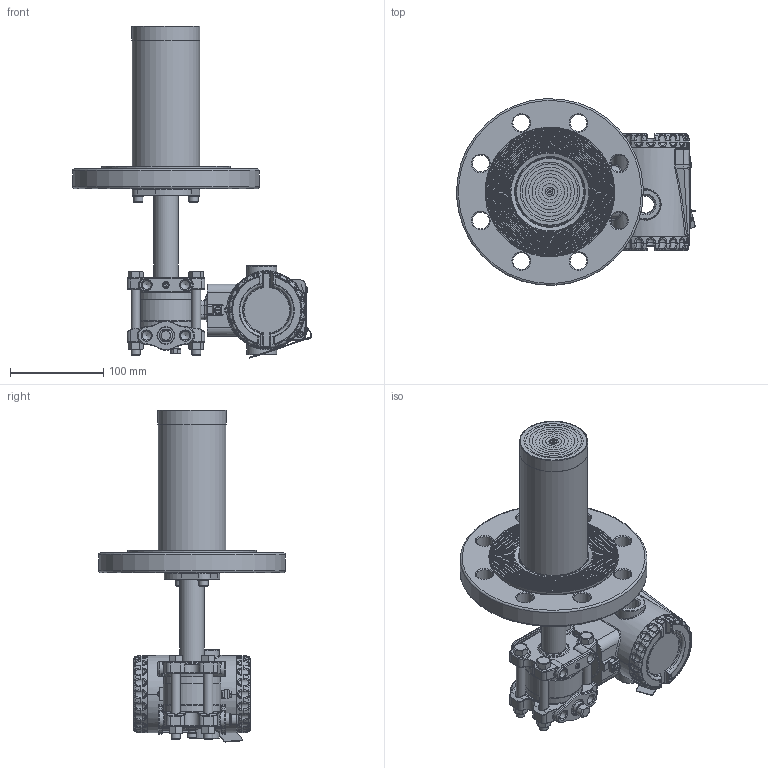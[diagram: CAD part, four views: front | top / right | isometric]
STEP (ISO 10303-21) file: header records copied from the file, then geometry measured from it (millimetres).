
FILE_DESCRIPTION(/* description */ (''),/* implementation_level */ '2;1');
FILE_NAME(/* name */ 'F:\Area\Desenvolvimento_2\Projects\Sensor\projetos\LD400-3d\dimensionais 3D clientes\LD400L\LD400L DN80 PN40 RF ext 150 ref 1-4NPT purga acima.stp',/* time_stamp */ '2023-02-23T17:17:26-03:00',/* author */ ('inventor02'),/* organization */ (''),/* preprocessor_version */ 'ST-DEVELOPER v17',/* originating_system */ 'Autodesk Inventor 2019',/* authorisation */ '');
FILE_SCHEMA (('CONFIG_CONTROL_DESIGN'));
Products named in the file (41): LD30XL DN80 PN40 RF ext 150 ref 1-4NPT purga acima; 204-0301-L-DN80 PN40 RF ext 150 purga acima; nivel fx3 com baixa diferencial 1-4NPT purga acima; involucro fx0-3 apos a usinagem final; flange diferencial std purga; 101-C-7484-01 flange selo nivel VR; 201-A-0504-tubo união teste 1; bujao 1-4NPT; Sangria; Porca 3-8 x 16 UNC; Paraf. 3-8 x 16 UNC; adaptação tubo x flanges 1-1-2 a 4pol; 101-B-0161-anel cortado do tubo - teste1; 101-B-0162-flange fixação tubo; ANSI B18.3.1M - M6x1 x 16; DIN 127 - A 6; flange DN80 PN40 ext 150; 101-C-0138-12; 096-B-0199-14; 101-B-7701-02 ext 3-150; Carcaça 400 com tampas e plaqueta sem letras; 101-D-0845-05 carcaça LD400 sem letras; 101-B-3614-03-tampa 400 sem letras; Tampa visor 400 montada sem letras; 101-B-3612-05 tampa visor 400 sem letras; 101-A-6107; oring 2034; 00034775-0; WHW_250; DIN 915 - M6 x 10; Chapa aterramento externo; 201-A-1771-02 inserto terra recartilhado; AS 1969 - ST4,2; ISO 1207 - M4 x 8; ANSI B18.3.1M - M4x0,7 x 8; Subconjunto plaqueta 400; plaqueta 400 em branco; Parafuso da Plaqueta; Rebite da Plaqueta; 096-A-0169-03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
Assembly tree (50 placements, depth 4):
  LD30XL DN80 PN40 RF ext 150 ref 1-4NPT purga acima
    204-0301-L-DN80 PN40 RF ext 150 purga acima
      nivel fx3 com baixa diferencial 1-4NPT purga acima
        involucro fx0-3 apos a usinagem final
        flange diferencial std purga
        101-C-7484-01 flange selo nivel VR
        201-A-0504-tubo união teste 1
        DIN 915 - M6 x 10
        bujao 1-4NPT
        Sangria
        Porca 3-8 x 16 UNC  x4
        Paraf. 3-8 x 16 UNC  x4
      adaptação tubo x flanges 1-1-2 a 4pol
        101-B-0161-anel cortado do tubo - teste1
        101-B-0162-flange fixação tubo
        ANSI B18.3.1M - M6x1 x 16  x2
        DIN 127 - A 6  x2
      flange DN80 PN40 ext 150
        101-C-0138-12
        096-B-0199-14
        101-B-7701-02 ext 3-150
    Carcaça 400 com tampas e plaqueta sem letras
      101-D-0845-05 carcaça LD400 sem letras
      101-B-3614-03-tampa 400 sem letras
      Tampa visor 400 montada sem letras
        101-B-3612-05 tampa visor 400 sem letras
        101-A-6107
        oring 2034
        00034775-0
        WHW_250
      DIN 915 - M6 x 10
      Chapa aterramento externo
      201-A-1771-02 inserto terra recartilhado
      AS 1969 - ST4,2
      ISO 1207 - M4 x 8
      ANSI B18.3.1M - M4x0,7 x 8  x2
      Subconjunto plaqueta 400
        plaqueta 400 em branco
        Parafuso da Plaqueta
        Rebite da Plaqueta
        096-A-0169-03
        101-A-0502-01
Bounding box: 255.66 x 199.81 x 355.42 mm (x, y, z)
Volume: 1428001.5 mm3; surface area: 415666.8 mm2
Topology: 43 solids, 43 shells, 2827 faces, 6825 edges, 4106 vertices
Faces by surface type: plane 748, cylinder 668, bspline 605, torus 500, cone 230, sphere 76
Full cylindrical faces by diameter (mm): 2 x4, 2.1 x1, 2.2 x1, 2.459 x3, 2.5 x1, 2.7 x1, 2.8 x1, 3 x4, 3.242 x3, 3.5 x1, 3.571 x1, 4 x5, 4.3 x2, 4.4 x1, 4.917 x4, 5 x1, 5.5 x3, 6 x6, 6.1 x2, 6.2 x1, 6.647 x1, 7 x5, 7.6 x2, 7.798 x4, 8 x1, 9.525 x4, 9.728 x6, 10 x2, 10.5 x8, 10.719 x2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
Entity records: 100292 total; most frequent: CARTESIAN_POINT 37346, DIRECTION 13034, ORIENTED_EDGE 12890, EDGE_CURVE 6445, AXIS2_PLACEMENT_3D 5600, VERTEX_POINT 3912, CIRCLE 3261, EDGE_LOOP 2897
